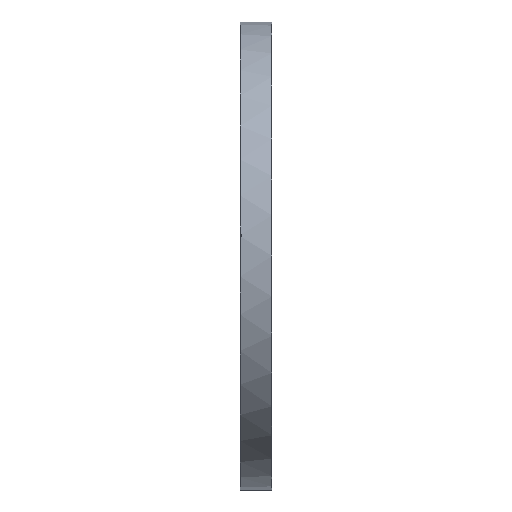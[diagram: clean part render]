
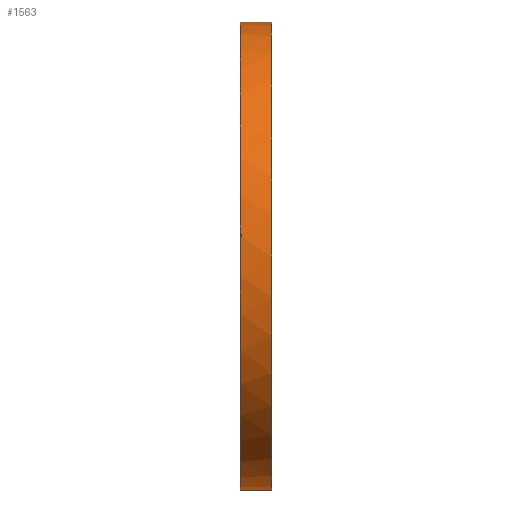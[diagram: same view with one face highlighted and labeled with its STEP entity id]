
A CAD part, left-side view. The second image highlights one B-rep face of the part: STEP entity #1563.
In plain terms, the highlighted cylindrical face has radius 209.55 mm (diameter 419.1 mm), a partial arc.
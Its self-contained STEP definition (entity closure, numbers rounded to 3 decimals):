
#122 = CARTESIAN_POINT ( 'NONE',  ( 0., 0., 209.55 ) ) ;
#196 = CYLINDRICAL_SURFACE ( 'NONE', #373, 209.55 ) ;
#264 = CARTESIAN_POINT ( 'NONE',  ( -208.824, 27.61, 17.433 ) ) ;
#299 = ORIENTED_EDGE ( 'NONE', *, *, #1853, .F. ) ;
#345 = B_SPLINE_CURVE_WITH_KNOTS ( 'NONE', 3,
 ( #2203, #2153, #3025, #2987, #2729, #498, #264, #1037, #818, #3272, #3253, #3593, #767, #800, #1915, #1090, #1884, #2442 ),
 .UNSPECIFIED., .F., .F.,
 ( 4, 2, 2, 2, 2, 2, 2, 2, 4 ),
 ( 0., 0.001, 0.001, 0.002, 0.003, 0.003, 0.004, 0.004, 0.005 ),
 .UNSPECIFIED. ) ;
#373 = AXIS2_PLACEMENT_3D ( 'NONE', #1867, #3309, #2444 ) ;
#498 = CARTESIAN_POINT ( 'NONE',  ( -208.84, 27.675, 17.235 ) ) ;
#606 = VERTEX_POINT ( 'NONE', #1378 ) ;
#653 = CARTESIAN_POINT ( 'NONE',  ( 0., 0., -209.55 ) ) ;
#716 = VERTEX_POINT ( 'NONE', #906 ) ;
#767 = CARTESIAN_POINT ( 'NONE',  ( -208.66, 27.675, 19.291 ) ) ;
#800 = CARTESIAN_POINT ( 'NONE',  ( -208.625, 27.847, 19.673 ) ) ;
#818 = CARTESIAN_POINT ( 'NONE',  ( -208.771, 27.5, 18.055 ) ) ;
#827 = EDGE_CURVE ( 'NONE', #2381, #2542, #1797, .T. ) ;
#835 = CIRCLE ( 'NONE', #1245, 209.55 ) ;
#859 = CARTESIAN_POINT ( 'NONE',  ( 0., 28.5, 0. ) ) ;
#860 = ORIENTED_EDGE ( 'NONE', *, *, #1395, .T. ) ;
#906 = CARTESIAN_POINT ( 'NONE',  ( 0., 0., 209.55 ) ) ;
#913 = DIRECTION ( 'NONE',  ( 0., 0., 1. ) ) ;
#972 = ORIENTED_EDGE ( 'NONE', *, *, #827, .F. ) ;
#979 = DIRECTION ( 'NONE',  ( 0., 1., 0. ) ) ;
#1037 = CARTESIAN_POINT ( 'NONE',  ( -208.789, 27.522, 17.844 ) ) ;
#1090 = CARTESIAN_POINT ( 'NONE',  ( -208.575, 28.201, 20.194 ) ) ;
#1093 = CARTESIAN_POINT ( 'NONE',  ( 0., 28.5, -209.55 ) ) ;
#1155 = ORIENTED_EDGE ( 'NONE', *, *, #2161, .T. ) ;
#1245 = AXIS2_PLACEMENT_3D ( 'NONE', #3536, #1549, #3000 ) ;
#1347 = VERTEX_POINT ( 'NONE', #653 ) ;
#1378 = CARTESIAN_POINT ( 'NONE',  ( -208.936, 28.5, 16.035 ) ) ;
#1395 = EDGE_CURVE ( 'NONE', #716, #2542, #2411, .T. ) ;
#1458 = AXIS2_PLACEMENT_3D ( 'NONE', #1555, #1863, #3467 ) ;
#1549 = DIRECTION ( 'NONE',  ( 0., 1., 0. ) ) ;
#1555 = CARTESIAN_POINT ( 'NONE',  ( 0., 28.5, 0. ) ) ;
#1563 = ADVANCED_FACE ( 'NONE', ( #1933 ), #196, .T. ) ;
#1574 = VERTEX_POINT ( 'NONE', #1093 ) ;
#1797 = CIRCLE ( 'NONE', #1458, 209.55 ) ;
#1853 = EDGE_CURVE ( 'NONE', #606, #2381, #345, .T. ) ;
#1863 = DIRECTION ( 'NONE',  ( 0., 1., 0. ) ) ;
#1867 = CARTESIAN_POINT ( 'NONE',  ( 0., 0., 0. ) ) ;
#1884 = CARTESIAN_POINT ( 'NONE',  ( -208.56, 28.342, 20.349 ) ) ;
#1915 = CARTESIAN_POINT ( 'NONE',  ( -208.607, 27.954, 19.857 ) ) ;
#1933 = FACE_OUTER_BOUND ( 'NONE', #3256, .T. ) ;
#1966 = CARTESIAN_POINT ( 'NONE',  ( -208.546, 28.5, 20.49 ) ) ;
#2083 = CARTESIAN_POINT ( 'NONE',  ( 0., 28.5, 209.55 ) ) ;
#2089 = CARTESIAN_POINT ( 'NONE',  ( 0., 0., -209.55 ) ) ;
#2153 = CARTESIAN_POINT ( 'NONE',  ( -208.925, 28.342, 16.176 ) ) ;
#2159 = VECTOR ( 'NONE', #3530, 1000. ) ;
#2161 = EDGE_CURVE ( 'NONE', #1347, #716, #835, .T. ) ;
#2203 = CARTESIAN_POINT ( 'NONE',  ( -208.936, 28.5, 16.035 ) ) ;
#2381 = VERTEX_POINT ( 'NONE', #1966 ) ;
#2410 = CIRCLE ( 'NONE', #2752, 209.55 ) ;
#2411 = LINE ( 'NONE', #122, #2159 ) ;
#2442 = CARTESIAN_POINT ( 'NONE',  ( -208.546, 28.5, 20.49 ) ) ;
#2444 = DIRECTION ( 'NONE',  ( 0., 0., 1. ) ) ;
#2542 = VERTEX_POINT ( 'NONE', #2083 ) ;
#2729 = CARTESIAN_POINT ( 'NONE',  ( -208.871, 27.847, 16.853 ) ) ;
#2752 = AXIS2_PLACEMENT_3D ( 'NONE', #859, #2880, #913 ) ;
#2779 = EDGE_CURVE ( 'NONE', #1574, #606, #2410, .T. ) ;
#2880 = DIRECTION ( 'NONE',  ( 0., 1., 0. ) ) ;
#2987 = CARTESIAN_POINT ( 'NONE',  ( -208.886, 27.954, 16.668 ) ) ;
#3000 = DIRECTION ( 'NONE',  ( 0., 0., 1. ) ) ;
#3025 = CARTESIAN_POINT ( 'NONE',  ( -208.913, 28.201, 16.331 ) ) ;
#3228 = LINE ( 'NONE', #2089, #3295 ) ;
#3253 = CARTESIAN_POINT ( 'NONE',  ( -208.716, 27.522, 18.682 ) ) ;
#3256 = EDGE_LOOP ( 'NONE', ( #3613, #1155, #860, #972, #299, #3478 ) ) ;
#3272 = CARTESIAN_POINT ( 'NONE',  ( -208.734, 27.5, 18.472 ) ) ;
#3295 = VECTOR ( 'NONE', #979, 1000. ) ;
#3309 = DIRECTION ( 'NONE',  ( 0., 1., 0. ) ) ;
#3365 = EDGE_CURVE ( 'NONE', #1347, #1574, #3228, .T. ) ;
#3467 = DIRECTION ( 'NONE',  ( 0., 0., 1. ) ) ;
#3478 = ORIENTED_EDGE ( 'NONE', *, *, #2779, .F. ) ;
#3530 = DIRECTION ( 'NONE',  ( 0., 1., 0. ) ) ;
#3536 = CARTESIAN_POINT ( 'NONE',  ( 0., 0., 0. ) ) ;
#3593 = CARTESIAN_POINT ( 'NONE',  ( -208.678, 27.61, 19.093 ) ) ;
#3613 = ORIENTED_EDGE ( 'NONE', *, *, #3365, .F. ) ;
